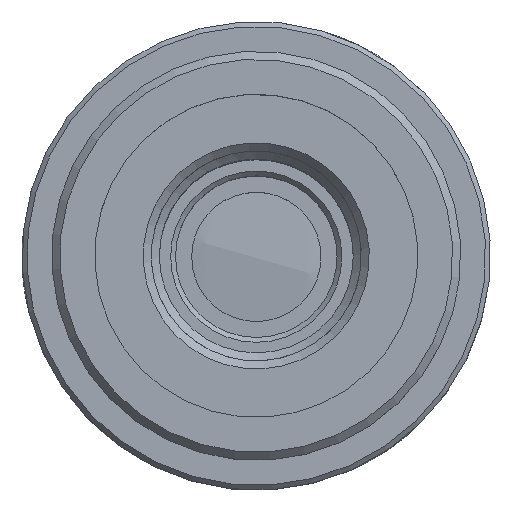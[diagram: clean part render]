
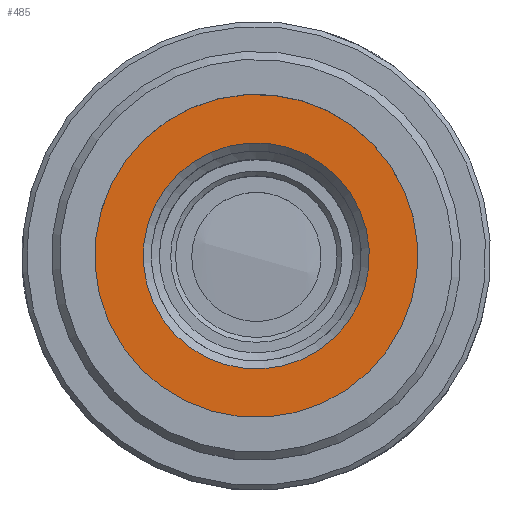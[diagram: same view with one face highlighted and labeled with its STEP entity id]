
A CAD part, top view. The second image highlights one B-rep face of the part: STEP entity #485.
In plain terms, the highlighted planar face has unit normal (0, 0, 1).
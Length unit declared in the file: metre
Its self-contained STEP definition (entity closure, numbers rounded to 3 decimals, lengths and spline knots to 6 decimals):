
#485=ADVANCED_FACE('NONE',(#1283,#1284),#1285,.F.);
#705=EDGE_CURVE('NONE',#1664,#1664,#1665,.T.);
#853=EDGE_CURVE('NONE',#1879,#1879,#1880,.T.);
#1283=FACE_BOUND('',#2408,.T.);
#1284=FACE_OUTER_BOUND('',#2409,.T.);
#1285=PLANE('',#2410);
#1664=VERTEX_POINT('',#2912);
#1665=CIRCLE('',#2913,0.01);
#1879=VERTEX_POINT('',#3255);
#1880=CIRCLE('',#3256,0.007);
#2408=EDGE_LOOP('',(#4366));
#2409=EDGE_LOOP('',(#4367));
#2410=AXIS2_PLACEMENT_3D('',#4368,#4369,#4370);
#2912=CARTESIAN_POINT('',(-0.000655,0.009952,0.0294));
#2913=AXIS2_PLACEMENT_3D('',#5009,#5010,#5011);
#3255=CARTESIAN_POINT('',(-0.000451,0.006959,0.0294));
#3256=AXIS2_PLACEMENT_3D('',#5138,#5139,#5140);
#4366=ORIENTED_EDGE('',*,*,#853,.T.);
#4367=ORIENTED_EDGE('',*,*,#705,.F.);
#4368=CARTESIAN_POINT('',(0.010002,0.000655,0.0294));
#4369=DIRECTION('',(0.,0.0,-1.0));
#4370=DIRECTION('',(0.0,-1.0,0.0));
#5009=CARTESIAN_POINT('',(0.000025,-0.000025,0.0294));
#5010=DIRECTION('',(0.,0.,-1.0));
#5011=DIRECTION('',(-0.068,0.998,0.));
#5138=CARTESIAN_POINT('',(0.000025,-0.000025,0.0294));
#5139=DIRECTION('',(0.,0.,-1.0));
#5140=DIRECTION('',(-0.068,0.998,0.));
